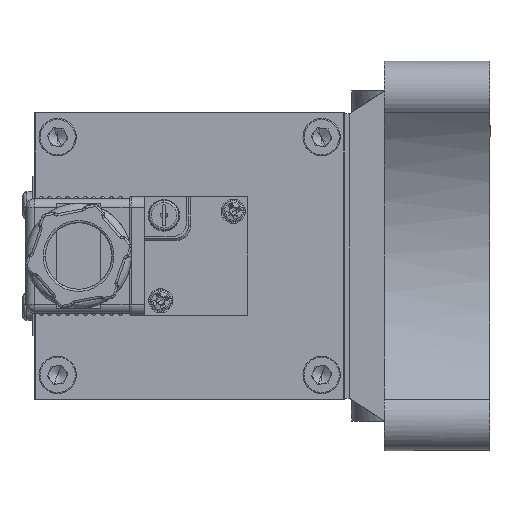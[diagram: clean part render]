
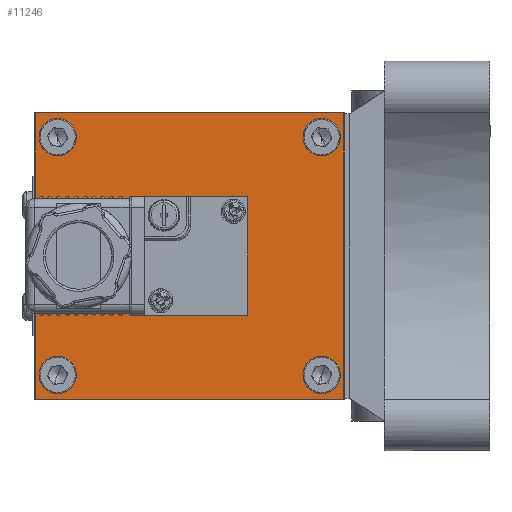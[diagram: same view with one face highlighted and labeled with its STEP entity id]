
A CAD part, left-side view. The second image highlights one B-rep face of the part: STEP entity #11246.
In plain terms, the highlighted planar face has unit normal (-1, 0, 0) as drawn and (0, 0, -1) by its records, which use the part's own axes.
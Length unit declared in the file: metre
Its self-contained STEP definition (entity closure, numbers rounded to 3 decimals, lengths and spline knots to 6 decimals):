
#388 = FACE_BOUND ( 'NONE', #19803, .T. ) ;
#811 = EDGE_CURVE ( 'NONE', #23897, #34475, #30688, .T. ) ;
#894 = DIRECTION ( 'NONE',  ( 0., 0., -1. ) ) ;
#1044 = DIRECTION ( 'NONE',  ( 1., 0., 0. ) ) ;
#1229 = ORIENTED_EDGE ( 'NONE', *, *, #9491, .F. ) ;
#1562 = DIRECTION ( 'NONE',  ( 1., 0., 0. ) ) ;
#1805 = EDGE_LOOP ( 'NONE', ( #12526, #11350 ) ) ;
#1944 = LINE ( 'NONE', #17224, #29547 ) ;
#2180 = DIRECTION ( 'NONE',  ( 0., 0., -1. ) ) ;
#2450 = ORIENTED_EDGE ( 'NONE', *, *, #22386, .F. ) ;
#3139 = AXIS2_PLACEMENT_3D ( 'NONE', #18210, #2180, #20891 ) ;
#4169 = AXIS2_PLACEMENT_3D ( 'NONE', #33029, #17058, #1044 ) ;
#4237 = EDGE_CURVE ( 'NONE', #13955, #19177, #30136, .T. ) ;
#5100 = CARTESIAN_POINT ( 'NONE',  ( -0.0295, 0.06625, 0. ) ) ;
#5306 = CARTESIAN_POINT ( 'NONE',  ( -0.0325, 0.07125, 0. ) ) ;
#5603 = ORIENTED_EDGE ( 'NONE', *, *, #13958, .F. ) ;
#5627 = CARTESIAN_POINT ( 'NONE',  ( -0.0245, 0.00625, 0. ) ) ;
#5866 = EDGE_CURVE ( 'NONE', #6818, #29711, #15859, .T. ) ;
#5965 = DIRECTION ( 'NONE',  ( 0., 0., -1. ) ) ;
#6644 = PLANE ( 'NONE',  #18484 ) ;
#6818 = VERTEX_POINT ( 'NONE', #5100 ) ;
#6867 = ORIENTED_EDGE ( 'NONE', *, *, #31944, .F. ) ;
#6998 = CARTESIAN_POINT ( 'NONE',  ( 0.027, 0.06625, 0. ) ) ;
#7490 = FACE_BOUND ( 'NONE', #27826, .T. ) ;
#7966 = EDGE_CURVE ( 'NONE', #8552, #32799, #11167, .T. ) ;
#8552 = VERTEX_POINT ( 'NONE', #33742 ) ;
#8879 = CARTESIAN_POINT ( 'NONE',  ( 0.0245, 0.06625, 0. ) ) ;
#8931 = ORIENTED_EDGE ( 'NONE', *, *, #30313, .F. ) ;
#9006 = VECTOR ( 'NONE', #29690, 1. ) ;
#9297 = EDGE_CURVE ( 'NONE', #19177, #13955, #14609, .T. ) ;
#9327 = DIRECTION ( 'NONE',  ( 0., 0., 1. ) ) ;
#9491 = EDGE_CURVE ( 'NONE', #24133, #14114, #31358, .T. ) ;
#10157 = DIRECTION ( 'NONE',  ( 1., 0., 0. ) ) ;
#10377 = AXIS2_PLACEMENT_3D ( 'NONE', #28866, #12863, #31535 ) ;
#10994 = CARTESIAN_POINT ( 'NONE',  ( -0.0325, 0.03625, 0. ) ) ;
#11167 = LINE ( 'NONE', #32529, #18290 ) ;
#11246 = ADVANCED_FACE ( 'NONE', ( #7490, #21691, #15415, #388, #27941 ), #6644, .F. ) ;
#11350 = ORIENTED_EDGE ( 'NONE', *, *, #9297, .F. ) ;
#12526 = ORIENTED_EDGE ( 'NONE', *, *, #4237, .F. ) ;
#12530 = AXIS2_PLACEMENT_3D ( 'NONE', #30061, #14053, #32729 ) ;
#12856 = ORIENTED_EDGE ( 'NONE', *, *, #20148, .F. ) ;
#12863 = DIRECTION ( 'NONE',  ( 0., 0., -1. ) ) ;
#13070 = CARTESIAN_POINT ( 'NONE',  ( -0.0295, 0.00625, 0. ) ) ;
#13851 = DIRECTION ( 'NONE',  ( 1., 0., 0. ) ) ;
#13955 = VERTEX_POINT ( 'NONE', #5627 ) ;
#13958 = EDGE_CURVE ( 'NONE', #19875, #8552, #16136, .T. ) ;
#14053 = DIRECTION ( 'NONE',  ( 0., 0., -1. ) ) ;
#14114 = VERTEX_POINT ( 'NONE', #8879 ) ;
#14303 = EDGE_CURVE ( 'NONE', #14114, #24133, #31560, .T. ) ;
#14609 = CIRCLE ( 'NONE', #21590, 0.0025 ) ;
#14794 = AXIS2_PLACEMENT_3D ( 'NONE', #21960, #5965, #24687 ) ;
#15415 = FACE_BOUND ( 'NONE', #1805, .T. ) ;
#15559 = AXIS2_PLACEMENT_3D ( 'NONE', #33550, #17586, #1562 ) ;
#15641 = ORIENTED_EDGE ( 'NONE', *, *, #14303, .F. ) ;
#15859 = CIRCLE ( 'NONE', #3139, 0.0025 ) ;
#16136 = LINE ( 'NONE', #10994, #9006 ) ;
#16914 = CARTESIAN_POINT ( 'NONE',  ( -0.027, 0.00625, 0. ) ) ;
#17058 = DIRECTION ( 'NONE',  ( 0., 0., -1. ) ) ;
#17224 = CARTESIAN_POINT ( 'NONE',  ( 0.0325, 0.03625, 0. ) ) ;
#17586 = DIRECTION ( 'NONE',  ( 0., 0., -1. ) ) ;
#17909 = CARTESIAN_POINT ( 'NONE',  ( 0., 0.07125, 0. ) ) ;
#17923 = CIRCLE ( 'NONE', #4169, 0.0025 ) ;
#18210 = CARTESIAN_POINT ( 'NONE',  ( -0.027, 0.06625, 0. ) ) ;
#18282 = CARTESIAN_POINT ( 'NONE',  ( -0.0245, 0.06625, 0. ) ) ;
#18290 = VECTOR ( 'NONE', #13851, 1. ) ;
#18484 = AXIS2_PLACEMENT_3D ( 'NONE', #27903, #9327, #28013 ) ;
#19177 = VERTEX_POINT ( 'NONE', #13070 ) ;
#19600 = DIRECTION ( 'NONE',  ( 1., 0., 0. ) ) ;
#19803 = EDGE_LOOP ( 'NONE', ( #27380, #8931 ) ) ;
#19875 = VERTEX_POINT ( 'NONE', #5306 ) ;
#19908 = DIRECTION ( 'NONE',  ( 0., 1., 0. ) ) ;
#20148 = EDGE_CURVE ( 'NONE', #29711, #6818, #31675, .T. ) ;
#20600 = DIRECTION ( 'NONE',  ( -1., 0., 0. ) ) ;
#20891 = DIRECTION ( 'NONE',  ( 1., 0., 0. ) ) ;
#21590 = AXIS2_PLACEMENT_3D ( 'NONE', #16914, #894, #19600 ) ;
#21691 = FACE_BOUND ( 'NONE', #26070, .T. ) ;
#21960 = CARTESIAN_POINT ( 'NONE',  ( -0.027, 0.06625, 0. ) ) ;
#22386 = EDGE_CURVE ( 'NONE', #33472, #19875, #33242, .T. ) ;
#23853 = CARTESIAN_POINT ( 'NONE',  ( 0.0245, 0.00625, 0. ) ) ;
#23897 = VERTEX_POINT ( 'NONE', #28621 ) ;
#24133 = VERTEX_POINT ( 'NONE', #29554 ) ;
#24312 = CARTESIAN_POINT ( 'NONE',  ( 0.0325, 0.00125, 0. ) ) ;
#24687 = DIRECTION ( 'NONE',  ( 1., 0., 0. ) ) ;
#25019 = AXIS2_PLACEMENT_3D ( 'NONE', #6998, #25695, #10157 ) ;
#25481 = CARTESIAN_POINT ( 'NONE',  ( 0.0325, 0.07125, 0. ) ) ;
#25695 = DIRECTION ( 'NONE',  ( 0., 0., -1. ) ) ;
#26070 = EDGE_LOOP ( 'NONE', ( #1229, #15641 ) ) ;
#26188 = VECTOR ( 'NONE', #20600, 1. ) ;
#27380 = ORIENTED_EDGE ( 'NONE', *, *, #811, .F. ) ;
#27826 = EDGE_LOOP ( 'NONE', ( #12856, #32937 ) ) ;
#27903 = CARTESIAN_POINT ( 'NONE',  ( -0.0325, 0.00125, 0. ) ) ;
#27941 = FACE_OUTER_BOUND ( 'NONE', #30634, .T. ) ;
#28013 = DIRECTION ( 'NONE',  ( 1., 0., 0. ) ) ;
#28621 = CARTESIAN_POINT ( 'NONE',  ( 0.0295, 0.00625, 0. ) ) ;
#28866 = CARTESIAN_POINT ( 'NONE',  ( 0.027, 0.00625, 0. ) ) ;
#29547 = VECTOR ( 'NONE', #19908, 1. ) ;
#29554 = CARTESIAN_POINT ( 'NONE',  ( 0.0295, 0.06625, 0. ) ) ;
#29690 = DIRECTION ( 'NONE',  ( 0., -1., 0. ) ) ;
#29711 = VERTEX_POINT ( 'NONE', #18282 ) ;
#30061 = CARTESIAN_POINT ( 'NONE',  ( -0.027, 0.00625, 0. ) ) ;
#30136 = CIRCLE ( 'NONE', #12530, 0.0025 ) ;
#30313 = EDGE_CURVE ( 'NONE', #34475, #23897, #17923, .T. ) ;
#30634 = EDGE_LOOP ( 'NONE', ( #5603, #2450, #6867, #33810 ) ) ;
#30688 = CIRCLE ( 'NONE', #10377, 0.0025 ) ;
#31358 = CIRCLE ( 'NONE', #15559, 0.0025 ) ;
#31535 = DIRECTION ( 'NONE',  ( 1., 0., 0. ) ) ;
#31560 = CIRCLE ( 'NONE', #25019, 0.0025 ) ;
#31675 = CIRCLE ( 'NONE', #14794, 0.0025 ) ;
#31944 = EDGE_CURVE ( 'NONE', #32799, #33472, #1944, .T. ) ;
#32529 = CARTESIAN_POINT ( 'NONE',  ( 0., 0.00125, 0. ) ) ;
#32729 = DIRECTION ( 'NONE',  ( 1., 0., 0. ) ) ;
#32799 = VERTEX_POINT ( 'NONE', #24312 ) ;
#32937 = ORIENTED_EDGE ( 'NONE', *, *, #5866, .F. ) ;
#33029 = CARTESIAN_POINT ( 'NONE',  ( 0.027, 0.00625, 0. ) ) ;
#33242 = LINE ( 'NONE', #17909, #26188 ) ;
#33472 = VERTEX_POINT ( 'NONE', #25481 ) ;
#33550 = CARTESIAN_POINT ( 'NONE',  ( 0.027, 0.06625, 0. ) ) ;
#33742 = CARTESIAN_POINT ( 'NONE',  ( -0.0325, 0.00125, 0. ) ) ;
#33810 = ORIENTED_EDGE ( 'NONE', *, *, #7966, .F. ) ;
#34475 = VERTEX_POINT ( 'NONE', #23853 ) ;
